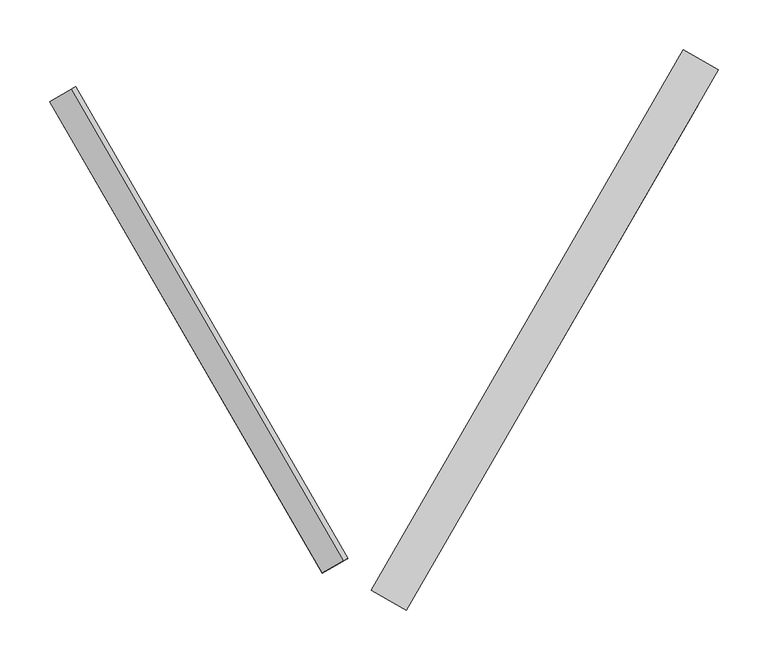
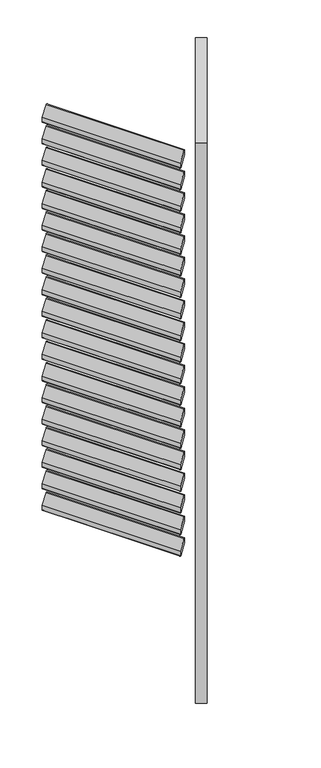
"""IFC4 building model written with IfcOpenShell, lengths in millimetres: proxy geometry, Renson_Amani_Loggia_Paro_Aluminium_Folding : Renson_Amani_Loggia_Paro_Aluminium_Folding."""

from ifc_helpers import new_model, si_unit, point, frame, frame_2d, origin, place, context, project, spatial, polyline, circle_curve, trimmed, segment, composite_curve, outline, extrude, source, transform, mapped, element, save


def generic_models_25cf847c(model_context):
    return source(origin(), model_context, "Body", "SweptSolid", [
        extrude(outline(composite_curve([segment(trimmed(circle_curve(frame_2d((44.0658831, -3.0)), 3.0), [point((44.0658831, 0.0))], [point((45.6998002, -5.5160117))], False, "CARTESIAN"), True, "CONTINUOUS"), segment(polyline([(45.6998002, -5.5160117), (30.3011505, -15.5160117)]), True, "CONTINUOUS"), segment(trimmed(circle_curve(frame_2d((28.6672334, -13.0)), 3.0), [point((30.3011505, -15.5160117))], [point((28.6672334, -16.0))], False, "CARTESIAN"), True, "CONTINUOUS"), segment(polyline([(28.6672334, -16.0), (-15.3986496, -16.0)]), True, "CONTINUOUS"), segment(trimmed(circle_curve(frame_2d((-15.3986496, -13.0)), 3.0), [point((-15.3986496, -16.0))], [point((-17.0325667, -10.4839883))], False, "CARTESIAN"), True, "CONTINUOUS"), segment(polyline([(-17.0325667, -10.4839883), (-0.8886405, 0.0), (44.0658831, 0.0)]), True, "CONTINUOUS")], self_intersect=False)), frame((1784.4546074, 37.7168064, 2307.3359298), z_axis=(0.4999999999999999, 0.8660254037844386, 0.0), x_axis=(-0.4716712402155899, 0.2723195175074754, 0.8386705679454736)), (0.0, 0.0, 1.0), 545.0),
        extrude(outline(composite_curve([segment(trimmed(circle_curve(frame_2d((44.0658831, -3.0)), 3.0), [point((44.0658831, 0.0))], [point((45.6998002, -5.5160117))], False, "CARTESIAN"), True, "CONTINUOUS"), segment(polyline([(45.6998002, -5.5160117), (30.3011505, -15.5160117)]), True, "CONTINUOUS"), segment(trimmed(circle_curve(frame_2d((28.6672334, -13.0)), 3.0), [point((30.3011505, -15.5160117))], [point((28.6672334, -16.0))], False, "CARTESIAN"), True, "CONTINUOUS"), segment(polyline([(28.6672334, -16.0), (-15.3986496, -16.0)]), True, "CONTINUOUS"), segment(trimmed(circle_curve(frame_2d((-15.3986496, -13.0)), 3.0), [point((-15.3986496, -16.0))], [point((-17.0325667, -10.4839883))], False, "CARTESIAN"), True, "CONTINUOUS"), segment(polyline([(-17.0325667, -10.4839883), (-0.8886405, 0.0), (44.0658831, 0.0)]), True, "CONTINUOUS")], self_intersect=False)), frame((1784.4546074, 37.7168064, 2217.3359298), z_axis=(0.4999999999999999, 0.8660254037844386, 0.0), x_axis=(-0.4716712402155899, 0.2723195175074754, 0.8386705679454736)), (0.0, 0.0, 1.0), 545.0),
        extrude(outline(composite_curve([segment(trimmed(circle_curve(frame_2d((44.0658831, -3.0)), 3.0), [point((44.0658831, 0.0))], [point((45.6998002, -5.5160117))], False, "CARTESIAN"), True, "CONTINUOUS"), segment(polyline([(45.6998002, -5.5160117), (30.3011505, -15.5160117)]), True, "CONTINUOUS"), segment(trimmed(circle_curve(frame_2d((28.6672334, -13.0)), 3.0), [point((30.3011505, -15.5160117))], [point((28.6672334, -16.0))], False, "CARTESIAN"), True, "CONTINUOUS"), segment(polyline([(28.6672334, -16.0), (-15.3986496, -16.0)]), True, "CONTINUOUS"), segment(trimmed(circle_curve(frame_2d((-15.3986496, -13.0)), 3.0), [point((-15.3986496, -16.0))], [point((-17.0325667, -10.4839883))], False, "CARTESIAN"), True, "CONTINUOUS"), segment(polyline([(-17.0325667, -10.4839883), (-0.8886405, 0.0), (44.0658831, 0.0)]), True, "CONTINUOUS")], self_intersect=False)), frame((1784.4546074, 37.7168064, 2127.3359298), z_axis=(0.4999999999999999, 0.8660254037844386, 0.0), x_axis=(-0.4716712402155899, 0.2723195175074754, 0.8386705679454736)), (0.0, 0.0, 1.0), 545.0),
        extrude(outline(composite_curve([segment(trimmed(circle_curve(frame_2d((44.0658831, -3.0)), 3.0), [point((44.0658831, 0.0))], [point((45.6998002, -5.5160117))], False, "CARTESIAN"), True, "CONTINUOUS"), segment(polyline([(45.6998002, -5.5160117), (30.3011505, -15.5160117)]), True, "CONTINUOUS"), segment(trimmed(circle_curve(frame_2d((28.6672334, -13.0)), 3.0), [point((30.3011505, -15.5160117))], [point((28.6672334, -16.0))], False, "CARTESIAN"), True, "CONTINUOUS"), segment(polyline([(28.6672334, -16.0), (-15.3986496, -16.0)]), True, "CONTINUOUS"), segment(trimmed(circle_curve(frame_2d((-15.3986496, -13.0)), 3.0), [point((-15.3986496, -16.0))], [point((-17.0325667, -10.4839883))], False, "CARTESIAN"), True, "CONTINUOUS"), segment(polyline([(-17.0325667, -10.4839883), (-0.8886405, 0.0), (44.0658831, 0.0)]), True, "CONTINUOUS")], self_intersect=False)), frame((1784.4546074, 37.7168064, 2037.3359298), z_axis=(0.4999999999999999, 0.8660254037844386, 0.0), x_axis=(-0.4716712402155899, 0.2723195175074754, 0.8386705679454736)), (0.0, 0.0, 1.0), 545.0),
        extrude(outline(composite_curve([segment(trimmed(circle_curve(frame_2d((44.0658831, -3.0)), 3.0), [point((44.0658831, 0.0))], [point((45.6998002, -5.5160117))], False, "CARTESIAN"), True, "CONTINUOUS"), segment(polyline([(45.6998002, -5.5160117), (30.3011505, -15.5160117)]), True, "CONTINUOUS"), segment(trimmed(circle_curve(frame_2d((28.6672334, -13.0)), 3.0), [point((30.3011505, -15.5160117))], [point((28.6672334, -16.0))], False, "CARTESIAN"), True, "CONTINUOUS"), segment(polyline([(28.6672334, -16.0), (-15.3986496, -16.0)]), True, "CONTINUOUS"), segment(trimmed(circle_curve(frame_2d((-15.3986496, -13.0)), 3.0), [point((-15.3986496, -16.0))], [point((-17.0325667, -10.4839883))], False, "CARTESIAN"), True, "CONTINUOUS"), segment(polyline([(-17.0325667, -10.4839883), (-0.8886405, 0.0), (44.0658831, 0.0)]), True, "CONTINUOUS")], self_intersect=False)), frame((1784.4546074, 37.7168064, 1947.3359298), z_axis=(0.4999999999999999, 0.8660254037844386, 0.0), x_axis=(-0.4716712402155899, 0.2723195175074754, 0.8386705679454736)), (0.0, 0.0, 1.0), 545.0),
        extrude(outline(composite_curve([segment(trimmed(circle_curve(frame_2d((44.0658831, -3.0)), 3.0), [point((44.0658831, 0.0))], [point((45.6998002, -5.5160117))], False, "CARTESIAN"), True, "CONTINUOUS"), segment(polyline([(45.6998002, -5.5160117), (30.3011505, -15.5160117)]), True, "CONTINUOUS"), segment(trimmed(circle_curve(frame_2d((28.6672334, -13.0)), 3.0), [point((30.3011505, -15.5160117))], [point((28.6672334, -16.0))], False, "CARTESIAN"), True, "CONTINUOUS"), segment(polyline([(28.6672334, -16.0), (-15.3986496, -16.0)]), True, "CONTINUOUS"), segment(trimmed(circle_curve(frame_2d((-15.3986496, -13.0)), 3.0), [point((-15.3986496, -16.0))], [point((-17.0325667, -10.4839883))], False, "CARTESIAN"), True, "CONTINUOUS"), segment(polyline([(-17.0325667, -10.4839883), (-0.8886405, 0.0), (44.0658831, 0.0)]), True, "CONTINUOUS")], self_intersect=False)), frame((1784.4546074, 37.7168064, 1857.3359298), z_axis=(0.4999999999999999, 0.8660254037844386, 0.0), x_axis=(-0.4716712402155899, 0.2723195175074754, 0.8386705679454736)), (0.0, 0.0, 1.0), 545.0),
        extrude(outline(composite_curve([segment(trimmed(circle_curve(frame_2d((44.0658831, -3.0)), 3.0), [point((44.0658831, 0.0))], [point((45.6998002, -5.5160117))], False, "CARTESIAN"), True, "CONTINUOUS"), segment(polyline([(45.6998002, -5.5160117), (30.3011505, -15.5160117)]), True, "CONTINUOUS"), segment(trimmed(circle_curve(frame_2d((28.6672334, -13.0)), 3.0), [point((30.3011505, -15.5160117))], [point((28.6672334, -16.0))], False, "CARTESIAN"), True, "CONTINUOUS"), segment(polyline([(28.6672334, -16.0), (-15.3986496, -16.0)]), True, "CONTINUOUS"), segment(trimmed(circle_curve(frame_2d((-15.3986496, -13.0)), 3.0), [point((-15.3986496, -16.0))], [point((-17.0325667, -10.4839883))], False, "CARTESIAN"), True, "CONTINUOUS"), segment(polyline([(-17.0325667, -10.4839883), (-0.8886405, 0.0), (44.0658831, 0.0)]), True, "CONTINUOUS")], self_intersect=False)), frame((1784.4546074, 37.7168064, 1767.3359298), z_axis=(0.4999999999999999, 0.8660254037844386, 0.0), x_axis=(-0.4716712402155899, 0.2723195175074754, 0.8386705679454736)), (0.0, 0.0, 1.0), 545.0),
        extrude(outline(composite_curve([segment(trimmed(circle_curve(frame_2d((44.0658831, -3.0)), 3.0), [point((44.0658831, 0.0))], [point((45.6998002, -5.5160117))], False, "CARTESIAN"), True, "CONTINUOUS"), segment(polyline([(45.6998002, -5.5160117), (30.3011505, -15.5160117)]), True, "CONTINUOUS"), segment(trimmed(circle_curve(frame_2d((28.6672334, -13.0)), 3.0), [point((30.3011505, -15.5160117))], [point((28.6672334, -16.0))], False, "CARTESIAN"), True, "CONTINUOUS"), segment(polyline([(28.6672334, -16.0), (-15.3986496, -16.0)]), True, "CONTINUOUS"), segment(trimmed(circle_curve(frame_2d((-15.3986496, -13.0)), 3.0), [point((-15.3986496, -16.0))], [point((-17.0325667, -10.4839883))], False, "CARTESIAN"), True, "CONTINUOUS"), segment(polyline([(-17.0325667, -10.4839883), (-0.8886405, 0.0), (44.0658831, 0.0)]), True, "CONTINUOUS")], self_intersect=False)), frame((1784.4546074, 37.7168064, 1677.3359298), z_axis=(0.4999999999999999, 0.8660254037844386, 0.0), x_axis=(-0.4716712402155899, 0.2723195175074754, 0.8386705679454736)), (0.0, 0.0, 1.0), 545.0),
        extrude(outline(composite_curve([segment(trimmed(circle_curve(frame_2d((44.0658831, -3.0)), 3.0), [point((44.0658831, 0.0))], [point((45.6998002, -5.5160117))], False, "CARTESIAN"), True, "CONTINUOUS"), segment(polyline([(45.6998002, -5.5160117), (30.3011505, -15.5160117)]), True, "CONTINUOUS"), segment(trimmed(circle_curve(frame_2d((28.6672334, -13.0)), 3.0), [point((30.3011505, -15.5160117))], [point((28.6672334, -16.0))], False, "CARTESIAN"), True, "CONTINUOUS"), segment(polyline([(28.6672334, -16.0), (-15.3986496, -16.0)]), True, "CONTINUOUS"), segment(trimmed(circle_curve(frame_2d((-15.3986496, -13.0)), 3.0), [point((-15.3986496, -16.0))], [point((-17.0325667, -10.4839883))], False, "CARTESIAN"), True, "CONTINUOUS"), segment(polyline([(-17.0325667, -10.4839883), (-0.8886405, 0.0), (44.0658831, 0.0)]), True, "CONTINUOUS")], self_intersect=False)), frame((1784.4546074, 37.7168064, 1587.3359298), z_axis=(0.4999999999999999, 0.8660254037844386, 0.0), x_axis=(-0.4716712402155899, 0.2723195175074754, 0.8386705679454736)), (0.0, 0.0, 1.0), 545.0),
        extrude(outline(composite_curve([segment(trimmed(circle_curve(frame_2d((44.0658831, -3.0)), 3.0), [point((44.0658831, 0.0))], [point((45.6998002, -5.5160117))], False, "CARTESIAN"), True, "CONTINUOUS"), segment(polyline([(45.6998002, -5.5160117), (30.3011505, -15.5160117)]), True, "CONTINUOUS"), segment(trimmed(circle_curve(frame_2d((28.6672334, -13.0)), 3.0), [point((30.3011505, -15.5160117))], [point((28.6672334, -16.0))], False, "CARTESIAN"), True, "CONTINUOUS"), segment(polyline([(28.6672334, -16.0), (-15.3986496, -16.0)]), True, "CONTINUOUS"), segment(trimmed(circle_curve(frame_2d((-15.3986496, -13.0)), 3.0), [point((-15.3986496, -16.0))], [point((-17.0325667, -10.4839883))], False, "CARTESIAN"), True, "CONTINUOUS"), segment(polyline([(-17.0325667, -10.4839883), (-0.8886405, 0.0), (44.0658831, 0.0)]), True, "CONTINUOUS")], self_intersect=False)), frame((1784.4546074, 37.7168064, 1497.3359298), z_axis=(0.4999999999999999, 0.8660254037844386, 0.0), x_axis=(-0.4716712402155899, 0.2723195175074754, 0.8386705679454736)), (0.0, 0.0, 1.0), 545.0),
        extrude(outline(composite_curve([segment(trimmed(circle_curve(frame_2d((44.0658831, -3.0)), 3.0), [point((44.0658831, 0.0))], [point((45.6998002, -5.5160117))], False, "CARTESIAN"), True, "CONTINUOUS"), segment(polyline([(45.6998002, -5.5160117), (30.3011505, -15.5160117)]), True, "CONTINUOUS"), segment(trimmed(circle_curve(frame_2d((28.6672334, -13.0)), 3.0), [point((30.3011505, -15.5160117))], [point((28.6672334, -16.0))], False, "CARTESIAN"), True, "CONTINUOUS"), segment(polyline([(28.6672334, -16.0), (-15.3986496, -16.0)]), True, "CONTINUOUS"), segment(trimmed(circle_curve(frame_2d((-15.3986496, -13.0)), 3.0), [point((-15.3986496, -16.0))], [point((-17.0325667, -10.4839883))], False, "CARTESIAN"), True, "CONTINUOUS"), segment(polyline([(-17.0325667, -10.4839883), (-0.8886405, 0.0), (44.0658831, 0.0)]), True, "CONTINUOUS")], self_intersect=False)), frame((1784.4546074, 37.7168064, 1407.3359298), z_axis=(0.4999999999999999, 0.8660254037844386, 0.0), x_axis=(-0.4716712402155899, 0.2723195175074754, 0.8386705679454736)), (0.0, 0.0, 1.0), 545.0),
        extrude(outline(composite_curve([segment(trimmed(circle_curve(frame_2d((44.0658831, -3.0)), 3.0), [point((44.0658831, 0.0))], [point((45.6998002, -5.5160117))], False, "CARTESIAN"), True, "CONTINUOUS"), segment(polyline([(45.6998002, -5.5160117), (30.3011505, -15.5160117)]), True, "CONTINUOUS"), segment(trimmed(circle_curve(frame_2d((28.6672334, -13.0)), 3.0), [point((30.3011505, -15.5160117))], [point((28.6672334, -16.0))], False, "CARTESIAN"), True, "CONTINUOUS"), segment(polyline([(28.6672334, -16.0), (-15.3986496, -16.0)]), True, "CONTINUOUS"), segment(trimmed(circle_curve(frame_2d((-15.3986496, -13.0)), 3.0), [point((-15.3986496, -16.0))], [point((-17.0325667, -10.4839883))], False, "CARTESIAN"), True, "CONTINUOUS"), segment(polyline([(-17.0325667, -10.4839883), (-0.8886405, 0.0), (44.0658831, 0.0)]), True, "CONTINUOUS")], self_intersect=False)), frame((1784.4546074, 37.7168064, 1317.3359298), z_axis=(0.4999999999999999, 0.8660254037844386, 0.0), x_axis=(-0.4716712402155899, 0.2723195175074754, 0.8386705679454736)), (0.0, 0.0, 1.0), 545.0),
        extrude(outline(composite_curve([segment(trimmed(circle_curve(frame_2d((44.0658831, -3.0)), 3.0), [point((44.0658831, 0.0))], [point((45.6998002, -5.5160117))], False, "CARTESIAN"), True, "CONTINUOUS"), segment(polyline([(45.6998002, -5.5160117), (30.3011505, -15.5160117)]), True, "CONTINUOUS"), segment(trimmed(circle_curve(frame_2d((28.6672334, -13.0)), 3.0), [point((30.3011505, -15.5160117))], [point((28.6672334, -16.0))], False, "CARTESIAN"), True, "CONTINUOUS"), segment(polyline([(28.6672334, -16.0), (-15.3986496, -16.0)]), True, "CONTINUOUS"), segment(trimmed(circle_curve(frame_2d((-15.3986496, -13.0)), 3.0), [point((-15.3986496, -16.0))], [point((-17.0325667, -10.4839883))], False, "CARTESIAN"), True, "CONTINUOUS"), segment(polyline([(-17.0325667, -10.4839883), (-0.8886405, 0.0), (44.0658831, 0.0)]), True, "CONTINUOUS")], self_intersect=False)), frame((1784.4546074, 37.7168064, 1227.3359298), z_axis=(0.4999999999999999, 0.8660254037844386, 0.0), x_axis=(-0.4716712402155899, 0.2723195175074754, 0.8386705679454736)), (0.0, 0.0, 1.0), 545.0),
        extrude(outline(composite_curve([segment(trimmed(circle_curve(frame_2d((44.0658831, -3.0)), 3.0), [point((44.0658831, 0.0))], [point((45.6998002, -5.5160117))], False, "CARTESIAN"), True, "CONTINUOUS"), segment(polyline([(45.6998002, -5.5160117), (30.3011505, -15.5160117)]), True, "CONTINUOUS"), segment(trimmed(circle_curve(frame_2d((28.6672334, -13.0)), 3.0), [point((30.3011505, -15.5160117))], [point((28.6672334, -16.0))], False, "CARTESIAN"), True, "CONTINUOUS"), segment(polyline([(28.6672334, -16.0), (-15.3986496, -16.0)]), True, "CONTINUOUS"), segment(trimmed(circle_curve(frame_2d((-15.3986496, -13.0)), 3.0), [point((-15.3986496, -16.0))], [point((-17.0325667, -10.4839883))], False, "CARTESIAN"), True, "CONTINUOUS"), segment(polyline([(-17.0325667, -10.4839883), (-0.8886405, 0.0), (44.0658831, 0.0)]), True, "CONTINUOUS")], self_intersect=False)), frame((1784.4546074, 37.7168064, 1137.3359298), z_axis=(0.4999999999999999, 0.8660254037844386, 0.0), x_axis=(-0.4716712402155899, 0.2723195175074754, 0.8386705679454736)), (0.0, 0.0, 1.0), 545.0),
        extrude(outline(composite_curve([segment(trimmed(circle_curve(frame_2d((44.0658831, -3.0)), 3.0), [point((44.0658831, 0.0))], [point((45.6998002, -5.5160117))], False, "CARTESIAN"), True, "CONTINUOUS"), segment(polyline([(45.6998002, -5.5160117), (30.3011505, -15.5160117)]), True, "CONTINUOUS"), segment(trimmed(circle_curve(frame_2d((28.6672334, -13.0)), 3.0), [point((30.3011505, -15.5160117))], [point((28.6672334, -16.0))], False, "CARTESIAN"), True, "CONTINUOUS"), segment(polyline([(28.6672334, -16.0), (-15.3986496, -16.0)]), True, "CONTINUOUS"), segment(trimmed(circle_curve(frame_2d((-15.3986496, -13.0)), 3.0), [point((-15.3986496, -16.0))], [point((-17.0325667, -10.4839883))], False, "CARTESIAN"), True, "CONTINUOUS"), segment(polyline([(-17.0325667, -10.4839883), (-0.8886405, 0.0), (44.0658831, 0.0)]), True, "CONTINUOUS")], self_intersect=False)), frame((1784.4546074, 37.7168064, 1047.3359298), z_axis=(0.4999999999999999, 0.8660254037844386, 0.0), x_axis=(-0.4716712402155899, 0.2723195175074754, 0.8386705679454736)), (0.0, 0.0, 1.0), 545.0),
        extrude(outline(composite_curve([segment(trimmed(circle_curve(frame_2d((44.0658831, -3.0)), 3.0), [point((44.0658831, 0.0))], [point((45.6998002, -5.5160117))], False, "CARTESIAN"), True, "CONTINUOUS"), segment(polyline([(45.6998002, -5.5160117), (30.3011505, -15.5160117)]), True, "CONTINUOUS"), segment(trimmed(circle_curve(frame_2d((28.6672334, -13.0)), 3.0), [point((30.3011505, -15.5160117))], [point((28.6672334, -16.0))], False, "CARTESIAN"), True, "CONTINUOUS"), segment(polyline([(28.6672334, -16.0), (-15.3986496, -16.0)]), True, "CONTINUOUS"), segment(trimmed(circle_curve(frame_2d((-15.3986496, -13.0)), 3.0), [point((-15.3986496, -16.0))], [point((-17.0325667, -10.4839883))], False, "CARTESIAN"), True, "CONTINUOUS"), segment(polyline([(-17.0325667, -10.4839883), (-0.8886405, 0.0), (44.0658831, 0.0)]), True, "CONTINUOUS")], self_intersect=False)), frame((1784.4546074, 37.7168064, 957.3359298), z_axis=(0.4999999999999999, 0.8660254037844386, 0.0), x_axis=(-0.4716712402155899, 0.2723195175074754, 0.8386705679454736)), (0.0, 0.0, 1.0), 545.0),
        extrude(outline(composite_curve([segment(trimmed(circle_curve(frame_2d((44.0658831, -3.0)), 3.0), [point((44.0658831, 0.0))], [point((45.6998002, -5.5160117))], False, "CARTESIAN"), True, "CONTINUOUS"), segment(polyline([(45.6998002, -5.5160117), (30.3011505, -15.5160117)]), True, "CONTINUOUS"), segment(trimmed(circle_curve(frame_2d((28.6672334, -13.0)), 3.0), [point((30.3011505, -15.5160117))], [point((28.6672334, -16.0))], False, "CARTESIAN"), True, "CONTINUOUS"), segment(polyline([(28.6672334, -16.0), (-15.3986496, -16.0)]), True, "CONTINUOUS"), segment(trimmed(circle_curve(frame_2d((-15.3986496, -13.0)), 3.0), [point((-15.3986496, -16.0))], [point((-17.0325667, -10.4839883))], False, "CARTESIAN"), True, "CONTINUOUS"), segment(polyline([(-17.0325667, -10.4839883), (-0.8886405, 0.0), (44.0658831, 0.0)]), True, "CONTINUOUS")], self_intersect=False)), frame((1784.4546074, 37.7168064, 867.3359298), z_axis=(0.4999999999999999, 0.8660254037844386, 0.0), x_axis=(-0.4716712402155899, 0.2723195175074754, 0.8386705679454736)), (0.0, 0.0, 1.0), 545.0),
        extrude(outline(composite_curve([segment(trimmed(circle_curve(frame_2d((44.0658831, -3.0)), 3.0), [point((44.0658831, 0.0))], [point((45.6998002, -5.5160117))], False, "CARTESIAN"), True, "CONTINUOUS"), segment(polyline([(45.6998002, -5.5160117), (30.3011505, -15.5160117)]), True, "CONTINUOUS"), segment(trimmed(circle_curve(frame_2d((28.6672334, -13.0)), 3.0), [point((30.3011505, -15.5160117))], [point((28.6672334, -16.0))], False, "CARTESIAN"), True, "CONTINUOUS"), segment(polyline([(28.6672334, -16.0), (-15.3986496, -16.0)]), True, "CONTINUOUS"), segment(trimmed(circle_curve(frame_2d((-15.3986496, -13.0)), 3.0), [point((-15.3986496, -16.0))], [point((-17.0325667, -10.4839883))], False, "CARTESIAN"), True, "CONTINUOUS"), segment(polyline([(-17.0325667, -10.4839883), (-0.8886405, 0.0), (44.0658831, 0.0)]), True, "CONTINUOUS")], self_intersect=False)), frame((1784.4546074, 37.7168064, 777.3359298), z_axis=(0.4999999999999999, 0.8660254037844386, 0.0), x_axis=(-0.4716712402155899, 0.2723195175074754, 0.8386705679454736)), (0.0, 0.0, 1.0), 545.0),
        extrude(outline(composite_curve([segment(trimmed(circle_curve(frame_2d((44.0658831, -3.0)), 3.0), [point((44.0658831, 0.0))], [point((45.6998002, -5.5160117))], False, "CARTESIAN"), True, "CONTINUOUS"), segment(polyline([(45.6998002, -5.5160117), (30.3011505, -15.5160117)]), True, "CONTINUOUS"), segment(trimmed(circle_curve(frame_2d((28.6672334, -13.0)), 3.0), [point((30.3011505, -15.5160117))], [point((28.6672334, -16.0))], False, "CARTESIAN"), True, "CONTINUOUS"), segment(polyline([(28.6672334, -16.0), (-15.3986496, -16.0)]), True, "CONTINUOUS"), segment(trimmed(circle_curve(frame_2d((-15.3986496, -13.0)), 3.0), [point((-15.3986496, -16.0))], [point((-17.0325667, -10.4839883))], False, "CARTESIAN"), True, "CONTINUOUS"), segment(polyline([(-17.0325667, -10.4839883), (-0.8886405, 0.0), (44.0658831, 0.0)]), True, "CONTINUOUS")], self_intersect=False)), frame((1784.4546074, 37.7168064, 687.3359298), z_axis=(0.4999999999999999, 0.8660254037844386, 0.0), x_axis=(-0.4716712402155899, 0.2723195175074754, 0.8386705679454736)), (0.0, 0.0, 1.0), 545.0),
        extrude(outline(composite_curve([segment(trimmed(circle_curve(frame_2d((44.0658831, -3.0)), 3.0), [point((44.0658831, 0.0))], [point((45.6998002, -5.5160117))], False, "CARTESIAN"), True, "CONTINUOUS"), segment(polyline([(45.6998002, -5.5160117), (30.3011505, -15.5160117)]), True, "CONTINUOUS"), segment(trimmed(circle_curve(frame_2d((28.6672334, -13.0)), 3.0), [point((30.3011505, -15.5160117))], [point((28.6672334, -16.0))], False, "CARTESIAN"), True, "CONTINUOUS"), segment(polyline([(28.6672334, -16.0), (-15.3986496, -16.0)]), True, "CONTINUOUS"), segment(trimmed(circle_curve(frame_2d((-15.3986496, -13.0)), 3.0), [point((-15.3986496, -16.0))], [point((-17.0325667, -10.4839883))], False, "CARTESIAN"), True, "CONTINUOUS"), segment(polyline([(-17.0325667, -10.4839883), (-0.8886405, 0.0), (44.0658831, 0.0)]), True, "CONTINUOUS")], self_intersect=False)), frame((1784.4546074, 37.7168064, 597.3359298), z_axis=(0.4999999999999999, 0.8660254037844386, 0.0), x_axis=(-0.4716712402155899, 0.2723195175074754, 0.8386705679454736)), (0.0, 0.0, 1.0), 545.0),
        extrude(outline(composite_curve([segment(trimmed(circle_curve(frame_2d((44.0658831, -3.0)), 3.0), [point((44.0658831, 0.0))], [point((45.6998002, -5.5160117))], False, "CARTESIAN"), True, "CONTINUOUS"), segment(polyline([(45.6998002, -5.5160117), (30.3011505, -15.5160117)]), True, "CONTINUOUS"), segment(trimmed(circle_curve(frame_2d((28.6672334, -13.0)), 3.0), [point((30.3011505, -15.5160117))], [point((28.6672334, -16.0))], False, "CARTESIAN"), True, "CONTINUOUS"), segment(polyline([(28.6672334, -16.0), (-15.3986496, -16.0)]), True, "CONTINUOUS"), segment(trimmed(circle_curve(frame_2d((-15.3986496, -13.0)), 3.0), [point((-15.3986496, -16.0))], [point((-17.0325667, -10.4839883))], False, "CARTESIAN"), True, "CONTINUOUS"), segment(polyline([(-17.0325667, -10.4839883), (-0.8886405, 0.0), (44.0658831, 0.0)]), True, "CONTINUOUS")], self_intersect=False)), frame((1784.4546074, 37.7168064, 507.3359298), z_axis=(0.4999999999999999, 0.8660254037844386, 0.0), x_axis=(-0.4716712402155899, 0.2723195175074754, 0.8386705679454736)), (0.0, 0.0, 1.0), 545.0),
        extrude(outline(composite_curve([segment(trimmed(circle_curve(frame_2d((44.0658831, -3.0)), 3.0), [point((44.0658831, 0.0))], [point((45.6998002, -5.5160117))], False, "CARTESIAN"), True, "CONTINUOUS"), segment(polyline([(45.6998002, -5.5160117), (30.3011505, -15.5160117)]), True, "CONTINUOUS"), segment(trimmed(circle_curve(frame_2d((28.6672334, -13.0)), 3.0), [point((30.3011505, -15.5160117))], [point((28.6672334, -16.0))], False, "CARTESIAN"), True, "CONTINUOUS"), segment(polyline([(28.6672334, -16.0), (-15.3986496, -16.0)]), True, "CONTINUOUS"), segment(trimmed(circle_curve(frame_2d((-15.3986496, -13.0)), 3.0), [point((-15.3986496, -16.0))], [point((-17.0325667, -10.4839883))], False, "CARTESIAN"), True, "CONTINUOUS"), segment(polyline([(-17.0325667, -10.4839883), (-0.8886405, 0.0), (44.0658831, 0.0)]), True, "CONTINUOUS")], self_intersect=False)), frame((1784.4546074, 37.7168064, 417.3359298), z_axis=(0.4999999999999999, 0.8660254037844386, 0.0), x_axis=(-0.4716712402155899, 0.2723195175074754, 0.8386705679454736)), (0.0, 0.0, 1.0), 545.0),
        extrude(outline(composite_curve([segment(trimmed(circle_curve(frame_2d((44.0658831, -3.0)), 3.0), [point((44.0658831, 0.0))], [point((45.6998002, -5.5160117))], False, "CARTESIAN"), True, "CONTINUOUS"), segment(polyline([(45.6998002, -5.5160117), (30.3011505, -15.5160117)]), True, "CONTINUOUS"), segment(trimmed(circle_curve(frame_2d((28.6672334, -13.0)), 3.0), [point((30.3011505, -15.5160117))], [point((28.6672334, -16.0))], False, "CARTESIAN"), True, "CONTINUOUS"), segment(polyline([(28.6672334, -16.0), (-15.3986496, -16.0)]), True, "CONTINUOUS"), segment(trimmed(circle_curve(frame_2d((-15.3986496, -13.0)), 3.0), [point((-15.3986496, -16.0))], [point((-17.0325667, -10.4839883))], False, "CARTESIAN"), True, "CONTINUOUS"), segment(polyline([(-17.0325667, -10.4839883), (-0.8886405, 0.0), (44.0658831, 0.0)]), True, "CONTINUOUS")], self_intersect=False)), frame((1784.4546074, 37.7168064, 327.3359298), z_axis=(0.4999999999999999, 0.8660254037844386, 0.0), x_axis=(-0.4716712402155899, 0.2723195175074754, 0.8386705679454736)), (0.0, 0.0, 1.0), 545.0),
        extrude(outline(composite_curve([segment(trimmed(circle_curve(frame_2d((44.0658831, -3.0)), 3.0), [point((44.0658831, 0.0))], [point((45.6998002, -5.5160117))], False, "CARTESIAN"), True, "CONTINUOUS"), segment(polyline([(45.6998002, -5.5160117), (30.3011505, -15.5160117)]), True, "CONTINUOUS"), segment(trimmed(circle_curve(frame_2d((28.6672334, -13.0)), 3.0), [point((30.3011505, -15.5160117))], [point((28.6672334, -16.0))], False, "CARTESIAN"), True, "CONTINUOUS"), segment(polyline([(28.6672334, -16.0), (-15.3986496, -16.0)]), True, "CONTINUOUS"), segment(trimmed(circle_curve(frame_2d((-15.3986496, -13.0)), 3.0), [point((-15.3986496, -16.0))], [point((-17.0325667, -10.4839883))], False, "CARTESIAN"), True, "CONTINUOUS"), segment(polyline([(-17.0325667, -10.4839883), (-0.8886405, 0.0), (44.0658831, 0.0)]), True, "CONTINUOUS")], self_intersect=False)), frame((1784.4546074, 37.7168064, 237.3359298), z_axis=(0.4999999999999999, 0.8660254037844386, 0.0), x_axis=(-0.4716712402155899, 0.2723195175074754, 0.8386705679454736)), (0.0, 0.0, 1.0), 545.0),
        extrude(outline(composite_curve([segment(trimmed(circle_curve(frame_2d((44.0658831, -3.0)), 3.0), [point((44.0658831, 0.0))], [point((45.6998002, -5.5160117))], False, "CARTESIAN"), True, "CONTINUOUS"), segment(polyline([(45.6998002, -5.5160117), (30.3011505, -15.5160117)]), True, "CONTINUOUS"), segment(trimmed(circle_curve(frame_2d((28.6672334, -13.0)), 3.0), [point((30.3011505, -15.5160117))], [point((28.6672334, -16.0))], False, "CARTESIAN"), True, "CONTINUOUS"), segment(polyline([(28.6672334, -16.0), (-15.3986496, -16.0)]), True, "CONTINUOUS"), segment(trimmed(circle_curve(frame_2d((-15.3986496, -13.0)), 3.0), [point((-15.3986496, -16.0))], [point((-17.0325667, -10.4839883))], False, "CARTESIAN"), True, "CONTINUOUS"), segment(polyline([(-17.0325667, -10.4839883), (-0.8886405, 0.0), (44.0658831, 0.0)]), True, "CONTINUOUS")], self_intersect=False)), frame((1784.4546074, 37.7168064, 147.3359298), z_axis=(0.4999999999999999, 0.8660254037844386, 0.0), x_axis=(-0.4716712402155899, 0.2723195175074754, 0.8386705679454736)), (0.0, 0.0, 1.0), 545.0),
        extrude(outline(polyline([(2300.0, -40.0), (-40.0, -40.0), (-40.0, 585.0), (2300.0, 585.0), (2300.0, -40.0)]), holes=[polyline([(2260.0, 544.9999999), (0.0, 544.9999999), (0.0, 0.0), (2260.0, 0.0), (2260.0, 544.9999999)])]), frame((1789.7820323, 34.6410162, 85.0), z_axis=(-0.8660254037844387, 0.49999999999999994, 0.0), x_axis=(0.0, 0.0, 1.0)), (0.0, 0.0, 1.0), 40.0),
        extrude(outline(composite_curve([segment(polyline([(-44.0658831, 0.0), (0.8886405, 0.0), (17.0325667, -10.4839883)]), True, "CONTINUOUS"), segment(trimmed(circle_curve(frame_2d((15.3986496, -13.0)), 3.0), [point((17.0325667, -10.4839883))], [point((15.3986496, -16.0))], False, "CARTESIAN"), True, "CONTINUOUS"), segment(polyline([(15.3986496, -16.0), (-28.6672334, -16.0)]), True, "CONTINUOUS"), segment(trimmed(circle_curve(frame_2d((-28.6672334, -13.0)), 3.0), [point((-28.6672334, -16.0))], [point((-30.3011505, -15.5160117))], False, "CARTESIAN"), True, "CONTINUOUS"), segment(polyline([(-30.3011505, -15.5160117), (-45.6998002, -5.5160117)]), True, "CONTINUOUS"), segment(trimmed(circle_curve(frame_2d((-44.0658831, -3.0)), 3.0), [point((-45.6998002, -5.5160117))], [point((-44.0658831, 0.0))], False, "CARTESIAN"), True, "CONTINUOUS")], self_intersect=False)), frame((1686.1094572, 37.7168064, 2307.3359298), z_axis=(-0.5000000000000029, 0.866025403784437, 0.0), x_axis=(-0.47167124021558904, -0.27231951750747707, -0.8386705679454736)), (0.0, 0.0, 1.0), 545.0),
        extrude(outline(composite_curve([segment(polyline([(-44.0658831, 0.0), (0.8886405, 0.0), (17.0325667, -10.4839883)]), True, "CONTINUOUS"), segment(trimmed(circle_curve(frame_2d((15.3986496, -13.0)), 3.0), [point((17.0325667, -10.4839883))], [point((15.3986496, -16.0))], False, "CARTESIAN"), True, "CONTINUOUS"), segment(polyline([(15.3986496, -16.0), (-28.6672334, -16.0)]), True, "CONTINUOUS"), segment(trimmed(circle_curve(frame_2d((-28.6672334, -13.0)), 3.0), [point((-28.6672334, -16.0))], [point((-30.3011505, -15.5160117))], False, "CARTESIAN"), True, "CONTINUOUS"), segment(polyline([(-30.3011505, -15.5160117), (-45.6998002, -5.5160117)]), True, "CONTINUOUS"), segment(trimmed(circle_curve(frame_2d((-44.0658831, -3.0)), 3.0), [point((-45.6998002, -5.5160117))], [point((-44.0658831, 0.0))], False, "CARTESIAN"), True, "CONTINUOUS")], self_intersect=False)), frame((1686.1094572, 37.7168064, 2217.3359298), z_axis=(-0.5000000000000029, 0.866025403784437, 0.0), x_axis=(-0.47167124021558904, -0.27231951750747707, -0.8386705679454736)), (0.0, 0.0, 1.0), 545.0),
        extrude(outline(composite_curve([segment(polyline([(-44.0658831, 0.0), (0.8886405, 0.0), (17.0325667, -10.4839883)]), True, "CONTINUOUS"), segment(trimmed(circle_curve(frame_2d((15.3986496, -13.0)), 3.0), [point((17.0325667, -10.4839883))], [point((15.3986496, -16.0))], False, "CARTESIAN"), True, "CONTINUOUS"), segment(polyline([(15.3986496, -16.0), (-28.6672334, -16.0)]), True, "CONTINUOUS"), segment(trimmed(circle_curve(frame_2d((-28.6672334, -13.0)), 3.0), [point((-28.6672334, -16.0))], [point((-30.3011505, -15.5160117))], False, "CARTESIAN"), True, "CONTINUOUS"), segment(polyline([(-30.3011505, -15.5160117), (-45.6998002, -5.5160117)]), True, "CONTINUOUS"), segment(trimmed(circle_curve(frame_2d((-44.0658831, -3.0)), 3.0), [point((-45.6998002, -5.5160117))], [point((-44.0658831, 0.0))], False, "CARTESIAN"), True, "CONTINUOUS")], self_intersect=False)), frame((1686.1094572, 37.7168064, 2127.3359298), z_axis=(-0.5000000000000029, 0.866025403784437, 0.0), x_axis=(-0.47167124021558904, -0.27231951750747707, -0.8386705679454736)), (0.0, 0.0, 1.0), 545.0),
        extrude(outline(composite_curve([segment(polyline([(-44.0658831, 0.0), (0.8886405, 0.0), (17.0325667, -10.4839883)]), True, "CONTINUOUS"), segment(trimmed(circle_curve(frame_2d((15.3986496, -13.0)), 3.0), [point((17.0325667, -10.4839883))], [point((15.3986496, -16.0))], False, "CARTESIAN"), True, "CONTINUOUS"), segment(polyline([(15.3986496, -16.0), (-28.6672334, -16.0)]), True, "CONTINUOUS"), segment(trimmed(circle_curve(frame_2d((-28.6672334, -13.0)), 3.0), [point((-28.6672334, -16.0))], [point((-30.3011505, -15.5160117))], False, "CARTESIAN"), True, "CONTINUOUS"), segment(polyline([(-30.3011505, -15.5160117), (-45.6998002, -5.5160117)]), True, "CONTINUOUS"), segment(trimmed(circle_curve(frame_2d((-44.0658831, -3.0)), 3.0), [point((-45.6998002, -5.5160117))], [point((-44.0658831, 0.0))], False, "CARTESIAN"), True, "CONTINUOUS")], self_intersect=False)), frame((1686.1094572, 37.7168064, 2037.3359298), z_axis=(-0.5000000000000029, 0.866025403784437, 0.0), x_axis=(-0.47167124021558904, -0.27231951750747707, -0.8386705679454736)), (0.0, 0.0, 1.0), 545.0),
        extrude(outline(composite_curve([segment(polyline([(-44.0658831, 0.0), (0.8886405, 0.0), (17.0325667, -10.4839883)]), True, "CONTINUOUS"), segment(trimmed(circle_curve(frame_2d((15.3986496, -13.0)), 3.0), [point((17.0325667, -10.4839883))], [point((15.3986496, -16.0))], False, "CARTESIAN"), True, "CONTINUOUS"), segment(polyline([(15.3986496, -16.0), (-28.6672334, -16.0)]), True, "CONTINUOUS"), segment(trimmed(circle_curve(frame_2d((-28.6672334, -13.0)), 3.0), [point((-28.6672334, -16.0))], [point((-30.3011505, -15.5160117))], False, "CARTESIAN"), True, "CONTINUOUS"), segment(polyline([(-30.3011505, -15.5160117), (-45.6998002, -5.5160117)]), True, "CONTINUOUS"), segment(trimmed(circle_curve(frame_2d((-44.0658831, -3.0)), 3.0), [point((-45.6998002, -5.5160117))], [point((-44.0658831, 0.0))], False, "CARTESIAN"), True, "CONTINUOUS")], self_intersect=False)), frame((1686.1094572, 37.7168064, 1947.3359298), z_axis=(-0.5000000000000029, 0.866025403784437, 0.0), x_axis=(-0.47167124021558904, -0.27231951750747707, -0.8386705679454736)), (0.0, 0.0, 1.0), 545.0),
        extrude(outline(composite_curve([segment(polyline([(-44.0658831, 0.0), (0.8886405, 0.0), (17.0325667, -10.4839883)]), True, "CONTINUOUS"), segment(trimmed(circle_curve(frame_2d((15.3986496, -13.0)), 3.0), [point((17.0325667, -10.4839883))], [point((15.3986496, -16.0))], False, "CARTESIAN"), True, "CONTINUOUS"), segment(polyline([(15.3986496, -16.0), (-28.6672334, -16.0)]), True, "CONTINUOUS"), segment(trimmed(circle_curve(frame_2d((-28.6672334, -13.0)), 3.0), [point((-28.6672334, -16.0))], [point((-30.3011505, -15.5160117))], False, "CARTESIAN"), True, "CONTINUOUS"), segment(polyline([(-30.3011505, -15.5160117), (-45.6998002, -5.5160117)]), True, "CONTINUOUS"), segment(trimmed(circle_curve(frame_2d((-44.0658831, -3.0)), 3.0), [point((-45.6998002, -5.5160117))], [point((-44.0658831, 0.0))], False, "CARTESIAN"), True, "CONTINUOUS")], self_intersect=False)), frame((1686.1094572, 37.7168064, 1857.3359298), z_axis=(-0.5000000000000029, 0.866025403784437, 0.0), x_axis=(-0.47167124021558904, -0.27231951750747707, -0.8386705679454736)), (0.0, 0.0, 1.0), 545.0),
        extrude(outline(composite_curve([segment(polyline([(-44.0658831, 0.0), (0.8886405, 0.0), (17.0325667, -10.4839883)]), True, "CONTINUOUS"), segment(trimmed(circle_curve(frame_2d((15.3986496, -13.0)), 3.0), [point((17.0325667, -10.4839883))], [point((15.3986496, -16.0))], False, "CARTESIAN"), True, "CONTINUOUS"), segment(polyline([(15.3986496, -16.0), (-28.6672334, -16.0)]), True, "CONTINUOUS"), segment(trimmed(circle_curve(frame_2d((-28.6672334, -13.0)), 3.0), [point((-28.6672334, -16.0))], [point((-30.3011505, -15.5160117))], False, "CARTESIAN"), True, "CONTINUOUS"), segment(polyline([(-30.3011505, -15.5160117), (-45.6998002, -5.5160117)]), True, "CONTINUOUS"), segment(trimmed(circle_curve(frame_2d((-44.0658831, -3.0)), 3.0), [point((-45.6998002, -5.5160117))], [point((-44.0658831, 0.0))], False, "CARTESIAN"), True, "CONTINUOUS")], self_intersect=False)), frame((1686.1094572, 37.7168064, 1767.3359298), z_axis=(-0.5000000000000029, 0.866025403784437, 0.0), x_axis=(-0.47167124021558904, -0.27231951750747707, -0.8386705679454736)), (0.0, 0.0, 1.0), 545.0),
        extrude(outline(composite_curve([segment(polyline([(-44.0658831, 0.0), (0.8886405, 0.0), (17.0325667, -10.4839883)]), True, "CONTINUOUS"), segment(trimmed(circle_curve(frame_2d((15.3986496, -13.0)), 3.0), [point((17.0325667, -10.4839883))], [point((15.3986496, -16.0))], False, "CARTESIAN"), True, "CONTINUOUS"), segment(polyline([(15.3986496, -16.0), (-28.6672334, -16.0)]), True, "CONTINUOUS"), segment(trimmed(circle_curve(frame_2d((-28.6672334, -13.0)), 3.0), [point((-28.6672334, -16.0))], [point((-30.3011505, -15.5160117))], False, "CARTESIAN"), True, "CONTINUOUS"), segment(polyline([(-30.3011505, -15.5160117), (-45.6998002, -5.5160117)]), True, "CONTINUOUS"), segment(trimmed(circle_curve(frame_2d((-44.0658831, -3.0)), 3.0), [point((-45.6998002, -5.5160117))], [point((-44.0658831, 0.0))], False, "CARTESIAN"), True, "CONTINUOUS")], self_intersect=False)), frame((1686.1094572, 37.7168064, 1677.3359298), z_axis=(-0.5000000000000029, 0.866025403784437, 0.0), x_axis=(-0.47167124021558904, -0.27231951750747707, -0.8386705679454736)), (0.0, 0.0, 1.0), 545.0),
        extrude(outline(composite_curve([segment(polyline([(-44.0658831, 0.0), (0.8886405, 0.0), (17.0325667, -10.4839883)]), True, "CONTINUOUS"), segment(trimmed(circle_curve(frame_2d((15.3986496, -13.0)), 3.0), [point((17.0325667, -10.4839883))], [point((15.3986496, -16.0))], False, "CARTESIAN"), True, "CONTINUOUS"), segment(polyline([(15.3986496, -16.0), (-28.6672334, -16.0)]), True, "CONTINUOUS"), segment(trimmed(circle_curve(frame_2d((-28.6672334, -13.0)), 3.0), [point((-28.6672334, -16.0))], [point((-30.3011505, -15.5160117))], False, "CARTESIAN"), True, "CONTINUOUS"), segment(polyline([(-30.3011505, -15.5160117), (-45.6998002, -5.5160117)]), True, "CONTINUOUS"), segment(trimmed(circle_curve(frame_2d((-44.0658831, -3.0)), 3.0), [point((-45.6998002, -5.5160117))], [point((-44.0658831, 0.0))], False, "CARTESIAN"), True, "CONTINUOUS")], self_intersect=False)), frame((1686.1094572, 37.7168064, 1587.3359298), z_axis=(-0.5000000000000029, 0.866025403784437, 0.0), x_axis=(-0.47167124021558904, -0.27231951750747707, -0.8386705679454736)), (0.0, 0.0, 1.0), 545.0),
        extrude(outline(composite_curve([segment(polyline([(-44.0658831, 0.0), (0.8886405, 0.0), (17.0325667, -10.4839883)]), True, "CONTINUOUS"), segment(trimmed(circle_curve(frame_2d((15.3986496, -13.0)), 3.0), [point((17.0325667, -10.4839883))], [point((15.3986496, -16.0))], False, "CARTESIAN"), True, "CONTINUOUS"), segment(polyline([(15.3986496, -16.0), (-28.6672334, -16.0)]), True, "CONTINUOUS"), segment(trimmed(circle_curve(frame_2d((-28.6672334, -13.0)), 3.0), [point((-28.6672334, -16.0))], [point((-30.3011505, -15.5160117))], False, "CARTESIAN"), True, "CONTINUOUS"), segment(polyline([(-30.3011505, -15.5160117), (-45.6998002, -5.5160117)]), True, "CONTINUOUS"), segment(trimmed(circle_curve(frame_2d((-44.0658831, -3.0)), 3.0), [point((-45.6998002, -5.5160117))], [point((-44.0658831, 0.0))], False, "CARTESIAN"), True, "CONTINUOUS")], self_intersect=False)), frame((1686.1094572, 37.7168064, 1497.3359298), z_axis=(-0.5000000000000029, 0.866025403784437, 0.0), x_axis=(-0.47167124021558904, -0.27231951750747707, -0.8386705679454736)), (0.0, 0.0, 1.0), 545.0),
        extrude(outline(composite_curve([segment(polyline([(-44.0658831, 0.0), (0.8886405, 0.0), (17.0325667, -10.4839883)]), True, "CONTINUOUS"), segment(trimmed(circle_curve(frame_2d((15.3986496, -13.0)), 3.0), [point((17.0325667, -10.4839883))], [point((15.3986496, -16.0))], False, "CARTESIAN"), True, "CONTINUOUS"), segment(polyline([(15.3986496, -16.0), (-28.6672334, -16.0)]), True, "CONTINUOUS"), segment(trimmed(circle_curve(frame_2d((-28.6672334, -13.0)), 3.0), [point((-28.6672334, -16.0))], [point((-30.3011505, -15.5160117))], False, "CARTESIAN"), True, "CONTINUOUS"), segment(polyline([(-30.3011505, -15.5160117), (-45.6998002, -5.5160117)]), True, "CONTINUOUS"), segment(trimmed(circle_curve(frame_2d((-44.0658831, -3.0)), 3.0), [point((-45.6998002, -5.5160117))], [point((-44.0658831, 0.0))], False, "CARTESIAN"), True, "CONTINUOUS")], self_intersect=False)), frame((1686.1094572, 37.7168064, 1407.3359298), z_axis=(-0.5000000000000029, 0.866025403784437, 0.0), x_axis=(-0.47167124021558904, -0.27231951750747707, -0.8386705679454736)), (0.0, 0.0, 1.0), 545.0),
        extrude(outline(composite_curve([segment(polyline([(-44.0658831, 0.0), (0.8886405, 0.0), (17.0325667, -10.4839883)]), True, "CONTINUOUS"), segment(trimmed(circle_curve(frame_2d((15.3986496, -13.0)), 3.0), [point((17.0325667, -10.4839883))], [point((15.3986496, -16.0))], False, "CARTESIAN"), True, "CONTINUOUS"), segment(polyline([(15.3986496, -16.0), (-28.6672334, -16.0)]), True, "CONTINUOUS"), segment(trimmed(circle_curve(frame_2d((-28.6672334, -13.0)), 3.0), [point((-28.6672334, -16.0))], [point((-30.3011505, -15.5160117))], False, "CARTESIAN"), True, "CONTINUOUS"), segment(polyline([(-30.3011505, -15.5160117), (-45.6998002, -5.5160117)]), True, "CONTINUOUS"), segment(trimmed(circle_curve(frame_2d((-44.0658831, -3.0)), 3.0), [point((-45.6998002, -5.5160117))], [point((-44.0658831, 0.0))], False, "CARTESIAN"), True, "CONTINUOUS")], self_intersect=False)), frame((1686.1094572, 37.7168064, 1317.3359298), z_axis=(-0.5000000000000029, 0.866025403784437, 0.0), x_axis=(-0.47167124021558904, -0.27231951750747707, -0.8386705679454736)), (0.0, 0.0, 1.0), 545.0),
        extrude(outline(composite_curve([segment(polyline([(-44.0658831, 0.0), (0.8886405, 0.0), (17.0325667, -10.4839883)]), True, "CONTINUOUS"), segment(trimmed(circle_curve(frame_2d((15.3986496, -13.0)), 3.0), [point((17.0325667, -10.4839883))], [point((15.3986496, -16.0))], False, "CARTESIAN"), True, "CONTINUOUS"), segment(polyline([(15.3986496, -16.0), (-28.6672334, -16.0)]), True, "CONTINUOUS"), segment(trimmed(circle_curve(frame_2d((-28.6672334, -13.0)), 3.0), [point((-28.6672334, -16.0))], [point((-30.3011505, -15.5160117))], False, "CARTESIAN"), True, "CONTINUOUS"), segment(polyline([(-30.3011505, -15.5160117), (-45.6998002, -5.5160117)]), True, "CONTINUOUS"), segment(trimmed(circle_curve(frame_2d((-44.0658831, -3.0)), 3.0), [point((-45.6998002, -5.5160117))], [point((-44.0658831, 0.0))], False, "CARTESIAN"), True, "CONTINUOUS")], self_intersect=False)), frame((1686.1094572, 37.7168064, 1227.3359298), z_axis=(-0.5000000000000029, 0.866025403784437, 0.0), x_axis=(-0.47167124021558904, -0.27231951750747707, -0.8386705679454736)), (0.0, 0.0, 1.0), 545.0),
        extrude(outline(composite_curve([segment(polyline([(-44.0658831, 0.0), (0.8886405, 0.0), (17.0325667, -10.4839883)]), True, "CONTINUOUS"), segment(trimmed(circle_curve(frame_2d((15.3986496, -13.0)), 3.0), [point((17.0325667, -10.4839883))], [point((15.3986496, -16.0))], False, "CARTESIAN"), True, "CONTINUOUS"), segment(polyline([(15.3986496, -16.0), (-28.6672334, -16.0)]), True, "CONTINUOUS"), segment(trimmed(circle_curve(frame_2d((-28.6672334, -13.0)), 3.0), [point((-28.6672334, -16.0))], [point((-30.3011505, -15.5160117))], False, "CARTESIAN"), True, "CONTINUOUS"), segment(polyline([(-30.3011505, -15.5160117), (-45.6998002, -5.5160117)]), True, "CONTINUOUS"), segment(trimmed(circle_curve(frame_2d((-44.0658831, -3.0)), 3.0), [point((-45.6998002, -5.5160117))], [point((-44.0658831, 0.0))], False, "CARTESIAN"), True, "CONTINUOUS")], self_intersect=False)), frame((1686.1094572, 37.7168064, 1137.3359298), z_axis=(-0.5000000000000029, 0.866025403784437, 0.0), x_axis=(-0.47167124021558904, -0.27231951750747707, -0.8386705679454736)), (0.0, 0.0, 1.0), 545.0),
        extrude(outline(composite_curve([segment(polyline([(-44.0658831, 0.0), (0.8886405, 0.0), (17.0325667, -10.4839883)]), True, "CONTINUOUS"), segment(trimmed(circle_curve(frame_2d((15.3986496, -13.0)), 3.0), [point((17.0325667, -10.4839883))], [point((15.3986496, -16.0))], False, "CARTESIAN"), True, "CONTINUOUS"), segment(polyline([(15.3986496, -16.0), (-28.6672334, -16.0)]), True, "CONTINUOUS"), segment(trimmed(circle_curve(frame_2d((-28.6672334, -13.0)), 3.0), [point((-28.6672334, -16.0))], [point((-30.3011505, -15.5160117))], False, "CARTESIAN"), True, "CONTINUOUS"), segment(polyline([(-30.3011505, -15.5160117), (-45.6998002, -5.5160117)]), True, "CONTINUOUS"), segment(trimmed(circle_curve(frame_2d((-44.0658831, -3.0)), 3.0), [point((-45.6998002, -5.5160117))], [point((-44.0658831, 0.0))], False, "CARTESIAN"), True, "CONTINUOUS")], self_intersect=False)), frame((1686.1094572, 37.7168064, 1047.3359298), z_axis=(-0.5000000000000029, 0.866025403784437, 0.0), x_axis=(-0.47167124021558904, -0.27231951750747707, -0.8386705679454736)), (0.0, 0.0, 1.0), 545.0),
        extrude(outline(composite_curve([segment(polyline([(-44.0658831, 0.0), (0.8886405, 0.0), (17.0325667, -10.4839883)]), True, "CONTINUOUS"), segment(trimmed(circle_curve(frame_2d((15.3986496, -13.0)), 3.0), [point((17.0325667, -10.4839883))], [point((15.3986496, -16.0))], False, "CARTESIAN"), True, "CONTINUOUS"), segment(polyline([(15.3986496, -16.0), (-28.6672334, -16.0)]), True, "CONTINUOUS"), segment(trimmed(circle_curve(frame_2d((-28.6672334, -13.0)), 3.0), [point((-28.6672334, -16.0))], [point((-30.3011505, -15.5160117))], False, "CARTESIAN"), True, "CONTINUOUS"), segment(polyline([(-30.3011505, -15.5160117), (-45.6998002, -5.5160117)]), True, "CONTINUOUS"), segment(trimmed(circle_curve(frame_2d((-44.0658831, -3.0)), 3.0), [point((-45.6998002, -5.5160117))], [point((-44.0658831, 0.0))], False, "CARTESIAN"), True, "CONTINUOUS")], self_intersect=False)), frame((1686.1094572, 37.7168064, 957.3359298), z_axis=(-0.5000000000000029, 0.866025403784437, 0.0), x_axis=(-0.47167124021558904, -0.27231951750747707, -0.8386705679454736)), (0.0, 0.0, 1.0), 545.0),
        extrude(outline(composite_curve([segment(polyline([(-44.0658831, 0.0), (0.8886405, 0.0), (17.0325667, -10.4839883)]), True, "CONTINUOUS"), segment(trimmed(circle_curve(frame_2d((15.3986496, -13.0)), 3.0), [point((17.0325667, -10.4839883))], [point((15.3986496, -16.0))], False, "CARTESIAN"), True, "CONTINUOUS"), segment(polyline([(15.3986496, -16.0), (-28.6672334, -16.0)]), True, "CONTINUOUS"), segment(trimmed(circle_curve(frame_2d((-28.6672334, -13.0)), 3.0), [point((-28.6672334, -16.0))], [point((-30.3011505, -15.5160117))], False, "CARTESIAN"), True, "CONTINUOUS"), segment(polyline([(-30.3011505, -15.5160117), (-45.6998002, -5.5160117)]), True, "CONTINUOUS"), segment(trimmed(circle_curve(frame_2d((-44.0658831, -3.0)), 3.0), [point((-45.6998002, -5.5160117))], [point((-44.0658831, 0.0))], False, "CARTESIAN"), True, "CONTINUOUS")], self_intersect=False)), frame((1686.1094572, 37.7168064, 867.3359298), z_axis=(-0.5000000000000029, 0.866025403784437, 0.0), x_axis=(-0.47167124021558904, -0.27231951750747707, -0.8386705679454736)), (0.0, 0.0, 1.0), 545.0),
        extrude(outline(composite_curve([segment(polyline([(-44.0658831, 0.0), (0.8886405, 0.0), (17.0325667, -10.4839883)]), True, "CONTINUOUS"), segment(trimmed(circle_curve(frame_2d((15.3986496, -13.0)), 3.0), [point((17.0325667, -10.4839883))], [point((15.3986496, -16.0))], False, "CARTESIAN"), True, "CONTINUOUS"), segment(polyline([(15.3986496, -16.0), (-28.6672334, -16.0)]), True, "CONTINUOUS"), segment(trimmed(circle_curve(frame_2d((-28.6672334, -13.0)), 3.0), [point((-28.6672334, -16.0))], [point((-30.3011505, -15.5160117))], False, "CARTESIAN"), True, "CONTINUOUS"), segment(polyline([(-30.3011505, -15.5160117), (-45.6998002, -5.5160117)]), True, "CONTINUOUS"), segment(trimmed(circle_curve(frame_2d((-44.0658831, -3.0)), 3.0), [point((-45.6998002, -5.5160117))], [point((-44.0658831, 0.0))], False, "CARTESIAN"), True, "CONTINUOUS")], self_intersect=False)), frame((1686.1094572, 37.7168064, 777.3359298), z_axis=(-0.5000000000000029, 0.866025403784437, 0.0), x_axis=(-0.47167124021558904, -0.27231951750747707, -0.8386705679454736)), (0.0, 0.0, 1.0), 545.0),
        extrude(outline(composite_curve([segment(polyline([(-44.0658831, 0.0), (0.8886405, 0.0), (17.0325667, -10.4839883)]), True, "CONTINUOUS"), segment(trimmed(circle_curve(frame_2d((15.3986496, -13.0)), 3.0), [point((17.0325667, -10.4839883))], [point((15.3986496, -16.0))], False, "CARTESIAN"), True, "CONTINUOUS"), segment(polyline([(15.3986496, -16.0), (-28.6672334, -16.0)]), True, "CONTINUOUS"), segment(trimmed(circle_curve(frame_2d((-28.6672334, -13.0)), 3.0), [point((-28.6672334, -16.0))], [point((-30.3011505, -15.5160117))], False, "CARTESIAN"), True, "CONTINUOUS"), segment(polyline([(-30.3011505, -15.5160117), (-45.6998002, -5.5160117)]), True, "CONTINUOUS"), segment(trimmed(circle_curve(frame_2d((-44.0658831, -3.0)), 3.0), [point((-45.6998002, -5.5160117))], [point((-44.0658831, 0.0))], False, "CARTESIAN"), True, "CONTINUOUS")], self_intersect=False)), frame((1686.1094572, 37.7168064, 687.3359298), z_axis=(-0.5000000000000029, 0.866025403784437, 0.0), x_axis=(-0.47167124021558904, -0.27231951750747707, -0.8386705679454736)), (0.0, 0.0, 1.0), 545.0),
    ])


if __name__ == "__main__":
    model = new_model("IFC4")
    model_context = context("Model", 3, world=origin())
    ifc_project = project(units=[si_unit("LENGTHUNIT", "METRE", prefix="MILLI")], contexts=[model_context])
    site = spatial("IfcSite", under=ifc_project)
    building = spatial("IfcBuilding", under=site)
    placement = place(None, origin())
    generic_models_shape = generic_models_25cf847c(model_context)
    element("IfcBuildingElementProxy", 1, Name="Renson_Amani_Loggia_Paro_Aluminium_Folding : Renson_Amani_Loggia_Paro_Aluminium_Folding", ObjectType="Renson_Amani_Loggia_Paro_Aluminium_Folding : Renson_Amani_Loggia_Paro_Aluminium_Folding", at=placement, inside=building, context=model_context, shape_type="MappedRepresentation", body=[
        mapped(generic_models_shape, transform((0.0, 0.0, 0.0), x_axis=(1.0, 0.0, 0.0), y_axis=(0.0, 1.0, 0.0), z_axis=(0.0, 0.0, 1.0))),
    ])
    save(model, "model.ifc")
